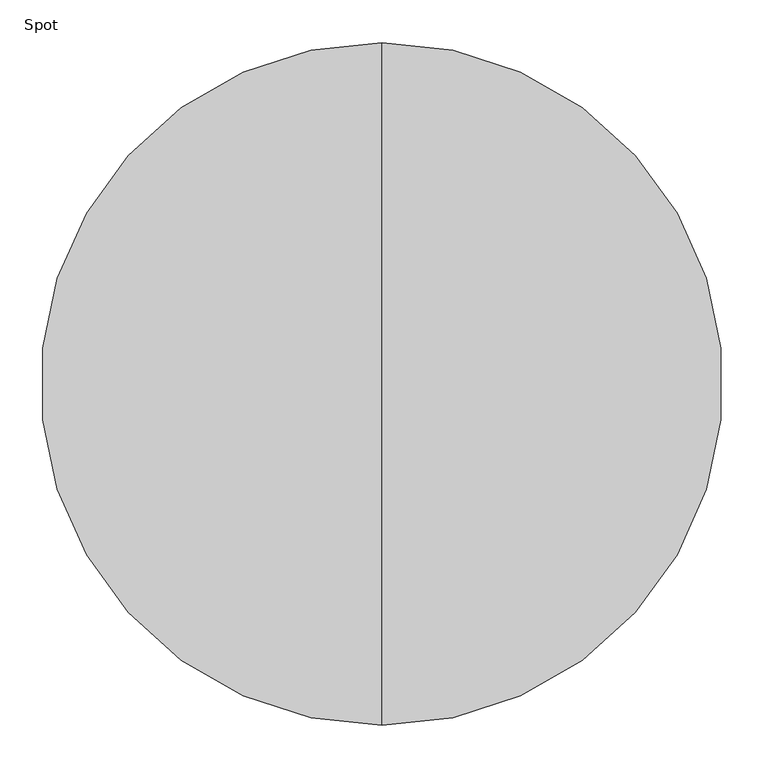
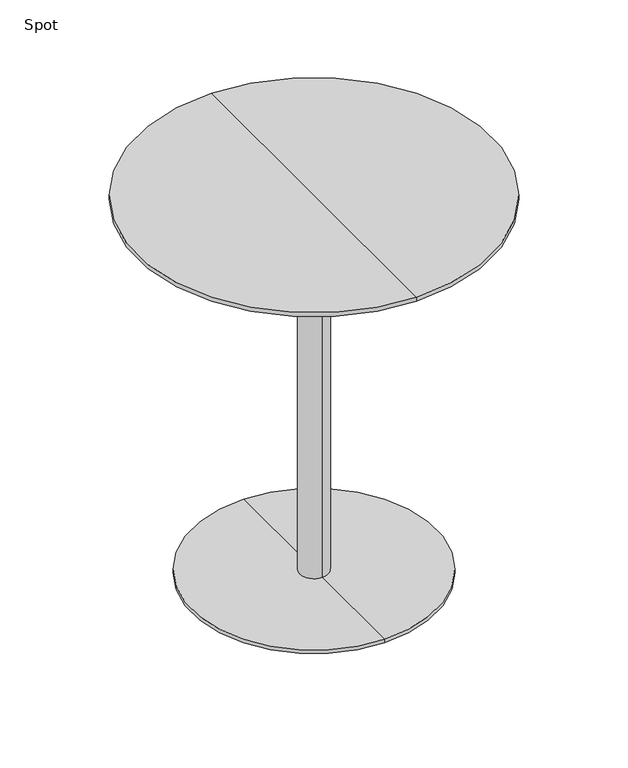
"""IFC4 building model written with IfcOpenShell, lengths in millimetres: furniture geometry, Spot : Bø80x90."""

import ifcopenshell
import ifcopenshell.guid

model = None  # the IFC model being written
_history = None  # IfcOwnerHistory: only IFC2X3 demands one
_inside = {}  # id of a spatial element -> (the spatial element, [elements in it])
_under = {}  # id of a project, library or spatial element -> (it, [spatial elements below it])
_declared = {}  # id of a project -> (the project, [libraries it declares])
_typed = {}  # id of a type object -> (the type object, [elements of that type])
_made_of = {}  # id of a material, layer set ... -> (it, [elements and type objects made of it])


def new_model(schema):
    """Start an empty IFC model of exactly this schema.

    Asked for "IFC4X3", IfcOpenShell would pick the latest addendum, in which some entities
    have other attributes; the version numbers below select the first issue.
    IFC2X3 requires an IfcOwnerHistory on every rooted entity: one is made here for all.
    """
    global model, _history
    if schema == "IFC4X3":
        model = ifcopenshell.file(schema_version=(4, 3, 0, 0))
    else:
        model = ifcopenshell.file(schema=schema)
    _inside.clear()
    _under.clear()
    _declared.clear()
    _typed.clear()
    _made_of.clear()
    _history = None
    if model.schema == "IFC2X3":
        org = make("IfcOrganization", Name="unknown")
        user = make(
            "IfcPersonAndOrganization",
            ThePerson=make("IfcPerson", FamilyName="unknown"),
            TheOrganization=org,
        )
        app = make(
            "IfcApplication",
            ApplicationDeveloper=org,
            Version="unknown",
            ApplicationFullName="unknown",
            ApplicationIdentifier="unknown",
        )
        _history = make(
            "IfcOwnerHistory",
            OwningUser=user,
            OwningApplication=app,
            ChangeAction="ADDED",
            CreationDate=0,
        )
    return model


def make(cls, **values):
    """One entity of the class cls with the attributes given. An attribute that is None is left unset."""
    return model.create_entity(
        cls, **{name: value for name, value in values.items() if value is not None}
    )


def rooted(cls, **values):
    """An entity with a GlobalId (a new one), such as an element, a storey or a relation."""
    return make(cls, GlobalId=ifcopenshell.guid.new(), OwnerHistory=_history, **values)


def si_unit(unit_type, name, prefix=None):
    """IfcSIUnit, for example si_unit("LENGTHUNIT", "METRE", prefix="MILLI")."""
    return make("IfcSIUnit", UnitType=unit_type, Prefix=prefix, Name=name)


def assignment(units):
    """IfcUnitAssignment: the units of a project."""
    return None if units is None else make("IfcUnitAssignment", Units=units)


def point(xyz):
    """IfcCartesianPoint."""
    return None if xyz is None else make("IfcCartesianPoint", Coordinates=xyz)


def direction(xyz):
    """IfcDirection."""
    return None if xyz is None else make("IfcDirection", DirectionRatios=xyz)


def frame(location, z_axis=None, x_axis=None):
    """IfcAxis2Placement3D, a coordinate frame: its origin and axes. An axis left out is left unset."""
    return make(
        "IfcAxis2Placement3D",
        Location=point(location),
        Axis=direction(z_axis),
        RefDirection=direction(x_axis),
    )


def origin():
    """The frame at (0, 0, 0) with its axes left unset."""
    return frame((0.0, 0.0, 0.0))


def place(relative_to, where):
    """IfcLocalPlacement: puts the frame where relative to a parent placement (None: the world)."""
    return make(
        "IfcLocalPlacement", PlacementRelTo=relative_to, RelativePlacement=where
    )


def context(
    kind, dimensions, precision=None, world=None, true_north=None, identifier=None
):
    """IfcGeometricRepresentationContext, for example the 3D "Model" context."""
    return make(
        "IfcGeometricRepresentationContext",
        ContextIdentifier=identifier,
        ContextType=kind,
        CoordinateSpaceDimension=dimensions,
        Precision=precision,
        WorldCoordinateSystem=world,
        TrueNorth=true_north,
    )


def project(units=None, contexts=None):
    """IfcProject with its units and contexts."""
    return rooted(
        "IfcProject",
        Name="project",
        RepresentationContexts=contexts,
        UnitsInContext=assignment(units),
    )


def spatial(cls, under=None, at=None, **own):
    """A site, building, storey or space (cls), placed at a placement, below another one or the project."""
    s = rooted(cls, ObjectPlacement=at, **own)
    if under is not None:
        _under.setdefault(under.id(), (under, []))[1].append(s)
    return s


def polyline(points):
    """IfcPolyline through the points."""
    return make("IfcPolyline", Points=[point(p) for p in points])


def circle_curve(where, radius):
    """IfcCircle in the frame where."""
    return make("IfcCircle", Position=where, Radius=radius)


def shape(context_of_items, identifier, shape_type, items):
    """IfcShapeRepresentation: the items that make up one representation, for example the "Body"."""
    return make(
        "IfcShapeRepresentation",
        ContextOfItems=context_of_items,
        RepresentationIdentifier=identifier,
        RepresentationType=shape_type,
        Items=items,
    )


def source(mapping_origin, context_of_items, identifier, shape_type, items):
    """IfcRepresentationMap: a shape defined once, which mapped items show again and again."""
    return make(
        "IfcRepresentationMap",
        MappingOrigin=mapping_origin,
        MappedRepresentation=shape(context_of_items, identifier, shape_type, items),
    )


def transform(
    local_origin,
    x_axis=None,
    y_axis=None,
    z_axis=None,
    scale=None,
    scale2=None,
    scale3=None,
    uniform=True,
):
    """IfcCartesianTransformationOperator3D, or its non-uniform kind. x_axis, y_axis, z_axis: its Axis1, 2, 3."""
    if uniform:
        return make(
            "IfcCartesianTransformationOperator3D",
            Axis1=direction(x_axis),
            Axis2=direction(y_axis),
            LocalOrigin=point(local_origin),
            Scale=scale,
            Axis3=direction(z_axis),
        )
    return make(
        "IfcCartesianTransformationOperator3DnonUniform",
        Axis1=direction(x_axis),
        Axis2=direction(y_axis),
        LocalOrigin=point(local_origin),
        Scale=scale,
        Axis3=direction(z_axis),
        Scale2=scale2,
        Scale3=scale3,
    )


def mapped(mapping_source, mapping_target):
    """IfcMappedItem: shows the shape of a source again, moved by a transform."""
    return make(
        "IfcMappedItem", MappingSource=mapping_source, MappingTarget=mapping_target
    )


def made_of(thing, what):
    """Note that an element or type object is made of a material, layer set ...; save() writes the relation."""
    if what is not None:
        _made_of.setdefault(what.id(), (what, []))[1].append(thing)
    return thing


def element(
    cls,
    number,
    at=None,
    inside=None,
    cuts=None,
    type_object=None,
    material=None,
    context=None,
    identifier="Body",
    shape_type=None,
    held_by="IfcProductDefinitionShape",
    body=None,
    shapes=None,
    **own,
):
    """One element of the class cls, such as IfcWall. Its Tag is "e" and its number.

    at: its placement. inside: the storey or other place that contains it. cuts: it is an
    opening in that element (IfcRelVoidsElement). A single representation is given by context,
    identifier, shape_type and body (its items); several are given by shapes. held_by: the class
    of the entity that holds the representations. save() writes the other relations.
    """
    e = rooted(cls, Tag="e%d" % number, ObjectPlacement=at, **own)
    if body is not None:
        shapes = [shape(context, identifier, shape_type, body)]
    if shapes is not None:
        e.Representation = make(held_by, Representations=shapes)
    if inside is not None:
        _inside.setdefault(inside.id(), (inside, []))[1].append(e)
    if cuts is not None:
        rooted(
            "IfcRelVoidsElement", RelatingBuildingElement=cuts, RelatedOpeningElement=e
        )
    if type_object is not None:
        _typed.setdefault(type_object.id(), (type_object, []))[1].append(e)
    return made_of(e, material)


def aggregate(whole, parts):
    """IfcRelAggregates: a whole, such as a stair, and the parts it consists of."""
    return rooted("IfcRelAggregates", RelatingObject=whole, RelatedObjects=parts)


def save(model, path):
    """Write the relations noted so far, then the file.

    IfcRelAggregates (storeys below a building ...), IfcRelContainedInSpatialStructure (elements
    in a storey), IfcRelDefinesByType, IfcRelAssociatesMaterial and IfcRelDeclares: one each for
    every whole, place, type object, material and project.
    """
    for whole, parts in _under.values():
        aggregate(whole, parts)
    for where, things in _inside.values():
        rooted(
            "IfcRelContainedInSpatialStructure",
            RelatedElements=things,
            RelatingStructure=where,
        )
    for kind, things in _typed.values():
        rooted("IfcRelDefinesByType", RelatedObjects=things, RelatingType=kind)
    for what, things in _made_of.values():
        rooted("IfcRelAssociatesMaterial", RelatedObjects=things, RelatingMaterial=what)
    for by, libraries in _declared.values():
        rooted("IfcRelDeclares", RelatingContext=by, RelatedDefinitions=libraries)
    model.write(path)


def plane_surface(at):
    """IfcPlane: the flat surface through the origin of the frame at, square to its z axis."""
    return make("IfcPlane", Position=at)


def cylinder_surface(at, radius):
    """IfcCylindricalSurface: all points at the distance radius from the z axis of the frame at."""
    return make("IfcCylindricalSurface", Position=at, Radius=radius)


def revolved_surface(curve, axis_point, axis_direction):
    """IfcSurfaceOfRevolution: the curve turned about the line through axis_point along axis_direction."""
    return make(
        "IfcSurfaceOfRevolution",
        SweptCurve=make("IfcArbitraryOpenProfileDef", ProfileType="CURVE", Curve=curve),
        AxisPosition=make("IfcAxis1Placement", Location=point(axis_point), Axis=direction(axis_direction)),
    )


def advanced_brep(points, edges, surfaces, faces):
    """IfcAdvancedBrep: a solid bounded by faces that lie on surfaces and meet in shared edges.

    An edge is (start, end): straight between two places in points (the first is 0);
    or (start, end, curve); or (start, end, curve, False) where it runs against its curve.
    A face is (place in surfaces, loops), or (place, loops, False) where it looks against
    its surface's normal. A loop lists edges by number (the first is 1), with a minus sign
    where the edge is run from its end to its start. The first loop is the outer one.
    """
    corners = [point(p) for p in points]
    vertices = [make("IfcVertexPoint", VertexGeometry=c) for c in corners]
    made = []
    for start, end, *more in edges:
        made.append(
            make(
                "IfcEdgeCurve",
                EdgeStart=vertices[start],
                EdgeEnd=vertices[end],
                EdgeGeometry=more[0] if more else make("IfcPolyline", Points=[corners[start], corners[end]]),
                SameSense=more[1] if len(more) > 1 else True,
            )
        )
    hull = []
    for where, loops, *sense in faces:
        bounds = []
        for j, loop in enumerate(loops):
            ring = [make("IfcOrientedEdge", EdgeElement=made[abs(k) - 1], Orientation=k > 0) for k in loop]
            bounds.append(
                make(
                    "IfcFaceOuterBound" if j == 0 else "IfcFaceBound",
                    Bound=make("IfcEdgeLoop", EdgeList=ring),
                    Orientation=True,
                )
            )
        hull.append(make("IfcAdvancedFace", Bounds=bounds, FaceSurface=surfaces[where], SameSense=sense[0] if sense else True))
    return make("IfcAdvancedBrep", Outer=make("IfcClosedShell", CfsFaces=hull))


def spot_76f3e95e(model_context):
    return source(origin(), model_context, "Body", "AdvancedBrep", [
        advanced_brep(
        [(0.0, -400.0, 900.0), (0.0, 400.0, 900.0), (0.0, 0.0, 900.0), (0.0, 400.0, 890.25), (0.0, -400.0, 890.25), (0.0, 0.0, 878.0), (0.0, -354.2823776, 878.0), (0.0, 354.2823776, 878.0)],
        [
            (0, 1, circle_curve(frame((0.0, 0.0, 900.0), z_axis=(0.0, 0.0, 1.0), x_axis=(0.0, -1.0, 0.0)), 400.0)),
            (1, 2),
            (2, 0),
            (3, 4, circle_curve(frame((0.0, 0.0, 890.25), z_axis=(0.0, 0.0, 1.0), x_axis=(0.0, -1.0, 0.0)), 400.0)),
            (4, 0),
            (0, 1, circle_curve(frame((0.0, 0.0, 900.0), z_axis=(0.0, 0.0, -1.0), x_axis=(0.0, -1.0, 0.0)), 400.0)),
            (1, 3),
            (5, 6),
            (6, 7, circle_curve(frame((0.0, 0.0, 878.0), z_axis=(0.0, 0.0, -1.0), x_axis=(0.0, -1.0, 0.0)), 354.2823776)),
            (7, 5),
            (7, 6, circle_curve(frame((0.0, 0.0, 878.0), z_axis=(0.0, 0.0, -1.0), x_axis=(0.0, -1.0, 0.0)), 354.2823776)),
            (4, 3, circle_curve(frame((0.0, 0.0, 890.25), z_axis=(0.0, 0.0, 1.0), x_axis=(0.0, -1.0, 0.0)), 400.0)),
            (6, 4),
            (3, 7),
        ],
        [
            plane_surface(frame((0.0, 0.0, 900.0), z_axis=(0.0, 0.0, 1.0), x_axis=(0.0, -1.0, 0.0))),
            cylinder_surface(frame((0.0, 0.0, 980.0), z_axis=(0.0, 0.0, -1.0), x_axis=(0.0, -1.0, 0.0)), 400.0),
            plane_surface(frame((0.0, 0.0, 878.0), z_axis=(0.0, 0.0, -1.0), x_axis=(0.0, -1.0, 0.0))),
            revolved_surface(polyline([(0.0, -400.0, 890.25), (0.0, -354.2823776, 878.0)]), (0.0, 0.0, 980.0), (0.0, 0.0, -1.0)),
        ],
        [
            (0, [[1, 2, 3]]),
            (1, [[4, 5, 6, 7]]),
            (2, [[8, 9, 10]]),
            (2, [[-10, 11, -8]]),
            (0, [[-6, -3, -2]]),
            (1, [[12, -7, -1, -5]]),
            (3, [[-9, 13, -4, 14]]),
            (3, [[-11, -14, -12, -13]]),
        ],
    ),
        advanced_brep(
        [(0.0, 32.0, 10.0), (0.0, -32.0, 10.0), (0.0, -32.0, 847.406916), (0.0, 32.0, 847.406916), (0.0, 275.0, 10.0), (0.0, -275.0, 10.0), (0.0, 275.0, 2.0), (0.0, -275.0, 2.0), (0.0, 0.0, 2.0), (0.0, 150.0, 878.0), (0.0, -150.0, 878.0), (0.0, 0.0, 878.0), (0.0, 150.0, 866.7213673), (0.0, -150.0, 866.7213673)],
        [
            (0, 1, circle_curve(frame((0.0, 0.0, 10.0), z_axis=(0.0, 0.0, 1.0), x_axis=(0.0, -1.0, 0.0)), 32.0)),
            (1, 2),
            (2, 3, circle_curve(frame((0.0, 0.0, 847.406916), z_axis=(0.0, 0.0, -1.0), x_axis=(0.0, -1.0, 0.0)), 32.0)),
            (3, 0),
            (1, 0, circle_curve(frame((0.0, 0.0, 10.0), z_axis=(0.0, 0.0, 1.0), x_axis=(0.0, -1.0, 0.0)), 32.0)),
            (3, 2, circle_curve(frame((0.0, 0.0, 847.406916), z_axis=(0.0, 0.0, -1.0), x_axis=(0.0, -1.0, 0.0)), 32.0)),
            (4, 5, circle_curve(frame((0.0, 0.0, 10.0), z_axis=(0.0, 0.0, 1.0), x_axis=(0.0, -1.0, 0.0)), 275.0)),
            (5, 1),
            (0, 4),
            (5, 4, circle_curve(frame((0.0, 0.0, 10.0), z_axis=(0.0, 0.0, 1.0), x_axis=(0.0, -1.0, 0.0)), 275.0)),
            (6, 7, circle_curve(frame((0.0, 0.0, 2.0), z_axis=(0.0, 0.0, 1.0), x_axis=(0.0, -1.0, 0.0)), 275.0)),
            (7, 5),
            (4, 6),
            (7, 6, circle_curve(frame((0.0, 0.0, 2.0), z_axis=(0.0, 0.0, 1.0), x_axis=(0.0, -1.0, 0.0)), 275.0)),
            (8, 7),
            (6, 8),
            (9, 10, circle_curve(frame((0.0, 0.0, 878.0), z_axis=(0.0, 0.0, 1.0), x_axis=(0.0, -1.0, 0.0)), 150.0)),
            (10, 11),
            (11, 9),
            (10, 9, circle_curve(frame((0.0, 0.0, 878.0), z_axis=(0.0, 0.0, 1.0), x_axis=(0.0, -1.0, 0.0)), 150.0)),
            (12, 13, circle_curve(frame((0.0, 0.0, 866.7213673), z_axis=(0.0, 0.0, 1.0), x_axis=(0.0, -1.0, 0.0)), 150.0)),
            (13, 10),
            (9, 12),
            (13, 12, circle_curve(frame((0.0, 0.0, 866.7213673), z_axis=(0.0, 0.0, 1.0), x_axis=(0.0, -1.0, 0.0)), 150.0)),
            (2, 13),
            (12, 3),
        ],
        [
            cylinder_surface(frame((0.0, 0.0, 1240.0), z_axis=(0.0, 0.0, -1.0), x_axis=(0.0, -1.0, 0.0)), 32.0),
            plane_surface(frame((0.0, 0.0, 10.0), z_axis=(0.0, 0.0, 1.0), x_axis=(0.0, -1.0, 0.0))),
            cylinder_surface(frame((0.0, 0.0, 1240.0), z_axis=(0.0, 0.0, -1.0), x_axis=(0.0, -1.0, 0.0)), 275.0),
            plane_surface(frame((0.0, 0.0, 2.0), z_axis=(0.0, 0.0, -1.0), x_axis=(0.0, -1.0, 0.0))),
            plane_surface(frame((0.0, 0.0, 878.0), z_axis=(0.0, 0.0, 1.0), x_axis=(0.0, -1.0, 0.0))),
            cylinder_surface(frame((0.0, 0.0, 1240.0), z_axis=(0.0, 0.0, -1.0), x_axis=(0.0, -1.0, 0.0)), 150.0),
            revolved_surface(polyline([(0.0, -150.0, 866.7213673), (0.0, -32.0, 847.406916)]), (0.0, 0.0, 1240.0), (0.0, 0.0, -1.0)),
        ],
        [
            (0, [[1, 2, 3, 4]]),
            (0, [[5, -4, 6, -2]]),
            (1, [[7, 8, -1, 9]]),
            (1, [[10, -9, -5, -8]]),
            (2, [[11, 12, -7, 13]]),
            (2, [[14, -13, -10, -12]]),
            (3, [[15, -11, 16]]),
            (3, [[-16, -14, -15]]),
            (4, [[17, 18, 19]]),
            (4, [[20, -19, -18]]),
            (5, [[21, 22, -17, 23]]),
            (5, [[24, -23, -20, -22]]),
            (6, [[-3, 25, -21, 26]]),
            (6, [[-6, -26, -24, -25]]),
        ],
    ),
    ])


if __name__ == "__main__":
    model = new_model("IFC4")
    model_context = context("Model", 3, world=origin())
    ifc_project = project(units=[si_unit("LENGTHUNIT", "METRE", prefix="MILLI")], contexts=[model_context])
    site = spatial("IfcSite", under=ifc_project)
    building = spatial("IfcBuilding", under=site)
    placement = place(None, origin())
    spot_shape = spot_76f3e95e(model_context)
    element("IfcFurniture", 1, ObjectType="Spot : Bø80x90", at=placement, inside=building, context=model_context, shape_type="MappedRepresentation", body=[
        mapped(spot_shape, transform((0.0, 0.0, 0.0), x_axis=(1.0, 0.0, 0.0), y_axis=(0.0, 1.0, 0.0), z_axis=(0.0, 0.0, 1.0))),
    ])
    save(model, "model.ifc")
